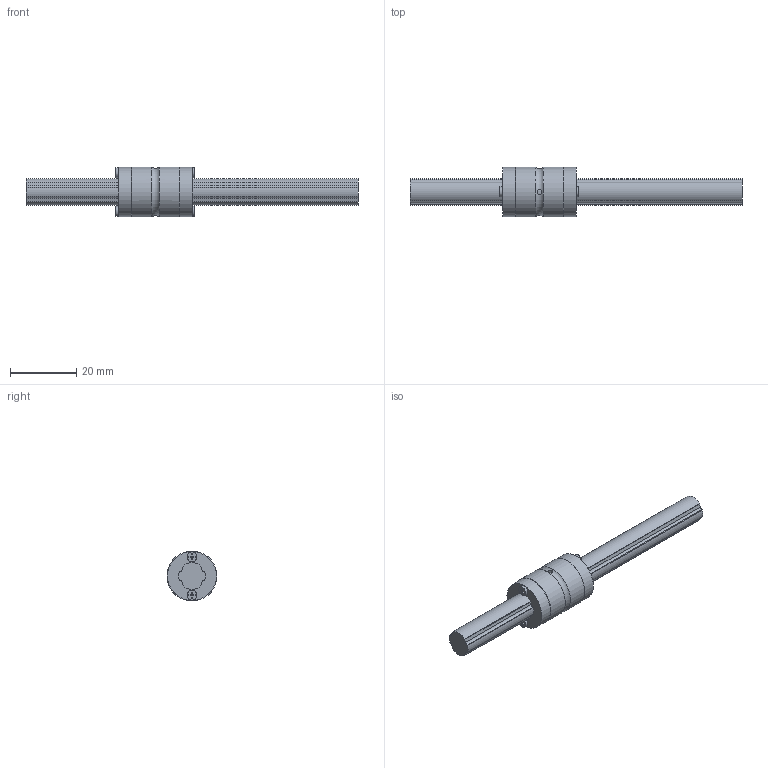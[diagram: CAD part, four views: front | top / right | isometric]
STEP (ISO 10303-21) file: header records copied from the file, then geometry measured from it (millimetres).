
FILE_DESCRIPTION(/* description */ ('STEP AP214'),/* implementation_level */ '2;1');
FILE_NAME(/* name */ 'LT8X+100L(00)',/* time_stamp */ '2024-09-05T14:13:52+02:00',/* author */ ('License CC BY-ND 4.0'),/* organization */ ('CADENAS'),/* preprocessor_version */ 'ST-DEVELOPER v19.3',/* originating_system */ 'PARTsolutions',/* authorisation */ ' ');
FILE_SCHEMA (('AUTOMOTIVE_DESIGN {1 0 10303 214 3 1 1}'));
Length unit declared in the file: millimetre
Products named in the file (3): LT8X+100L(00); 1LT8X 100Shaft; 1LT8X Cylindar
Assembly tree (2 placements, depth 2):
  LT8X+100L(00)
    1LT8X 100Shaft
    1LT8X Cylindar
Bounding box: 100 x 15 x 15 mm (x, y, z)
Volume: 7540.4 mm3; surface area: 4615.6 mm2
Topology: 2 solids, 2 shells, 118 faces, 318 edges, 212 vertices
Faces by surface type: plane 71, cylinder 44, cone 2, torus 1
Full cylindrical faces by diameter (mm): 1.5 x2, 3 x4, 14.8 x2, 15 x2
Entity records: 3721 total; most frequent: CARTESIAN_POINT 687, DIRECTION 616, ORIENTED_EDGE 600, EDGE_CURVE 300, LINE 210, VECTOR 210, VERTEX_POINT 206, AXIS2_PLACEMENT_3D 203
